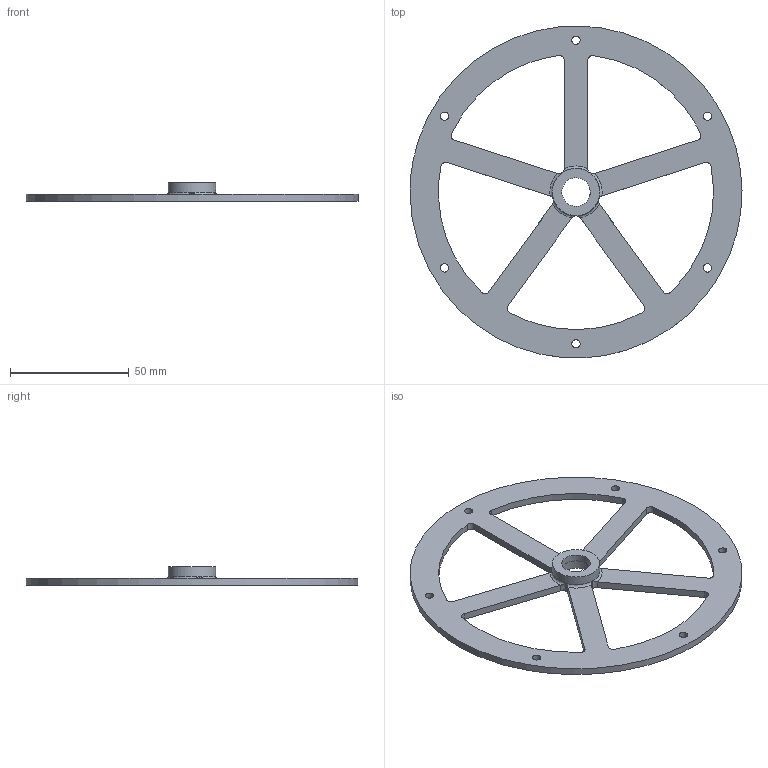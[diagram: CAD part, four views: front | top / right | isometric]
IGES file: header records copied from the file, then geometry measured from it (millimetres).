
Global section: file name: brace v7; native system: unknown; preprocessor: unknown; author: unknown; organization: unknown; date: 20200329.203605; units: millimetre
Bounding box: 140 x 139.92 x 8 mm (x, y, z)
Volume: 22922 mm3; surface area: 19377.9 mm2
Topology: 1 solids, 1 shells, 54 faces, 166 edges, 111 vertices
Faces by surface type: bspline 54
